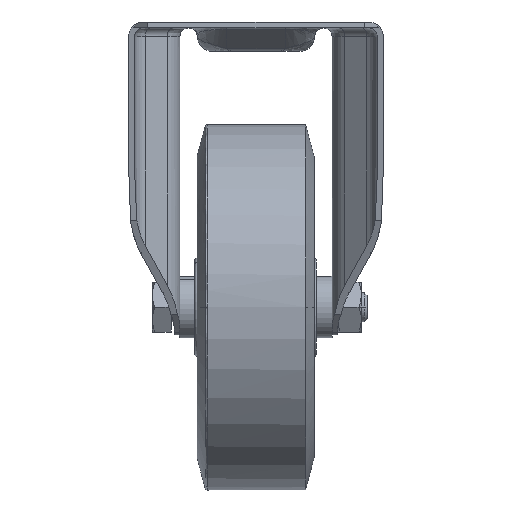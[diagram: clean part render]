
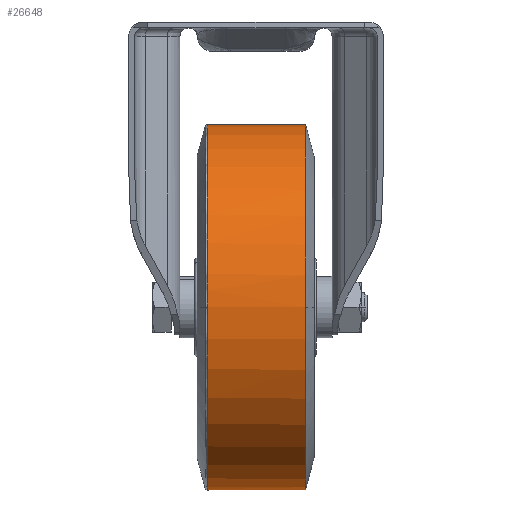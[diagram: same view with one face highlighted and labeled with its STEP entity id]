
A CAD part, left-side view. The second image highlights one B-rep face of the part: STEP entity #26648.
In plain terms, the highlighted cylindrical face has radius 62.5 mm (diameter 125 mm), a partial arc.
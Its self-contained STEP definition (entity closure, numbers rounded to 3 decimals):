
#169 = CARTESIAN_POINT ( 'NONE',  ( -127.125, 21.061, -12.938 ) ) ;
#294 = CARTESIAN_POINT ( 'NONE',  ( -102.749, 21.061, -62.632 ) ) ;
#1006 = EDGE_CURVE ( 'NONE', #4888, #14681, #14938, .T. ) ;
#1133 = CARTESIAN_POINT ( 'NONE',  ( -95.947, 21.061, 41.301 ) ) ;
#1487 = EDGE_CURVE ( 'NONE', #14681, #18964, #12359, .T. ) ;
#2014 = CARTESIAN_POINT ( 'NONE',  ( -64.625, -12.564, 49.562 ) ) ;
#2960 = CARTESIAN_POINT ( 'NONE',  ( -92.322, 21.061, -69.115 ) ) ;
#3795 = CARTESIAN_POINT ( 'NONE',  ( -105.927, 21.061, 34.148 ) ) ;
#4888 = VERTEX_POINT ( 'NONE', #17099 ) ;
#4905 = CARTESIAN_POINT ( 'NONE',  ( -64.625, 21.061, -75.438 ) ) ;
#5621 = CARTESIAN_POINT ( 'NONE',  ( -80.83, 21.061, -73.439 ) ) ;
#6436 = CARTESIAN_POINT ( 'NONE',  ( -64.625, 21.061, -12.938 ) ) ;
#6453 = CARTESIAN_POINT ( 'NONE',  ( -114.319, 21.061, 25.186 ) ) ;
#7866 = CARTESIAN_POINT ( 'NONE',  ( -64.625, -12.564, -12.938 ) ) ;
#8169 = CARTESIAN_POINT ( 'NONE',  ( -125.126, 21.061, -29.143 ) ) ;
#8276 = CARTESIAN_POINT ( 'NONE',  ( -68.716, 21.061, -75.438 ) ) ;
#9106 = CARTESIAN_POINT ( 'NONE',  ( -120.802, 21.061, 14.759 ) ) ;
#9311 = CIRCLE ( 'NONE', #13310, 62.5 ) ;
#10507 = DIRECTION ( 'NONE',  ( 0., 0., 1. ) ) ;
#10819 = CARTESIAN_POINT ( 'NONE',  ( -120.802, 21.061, -40.635 ) ) ;
#11755 = CARTESIAN_POINT ( 'NONE',  ( -125.126, 21.061, 3.267 ) ) ;
#12359 = B_SPLINE_CURVE_WITH_KNOTS ( 'NONE', 3,
 ( #169, #16077, #24058, #8169, #26737, #10819, #29417, #13505, #32061, #16189, #294, #18847, #2960, #21511, #5621, #24167, #8276, #26852 ),
 .UNSPECIFIED., .F., .F.,
 ( 4, 2, 2, 2, 2, 2, 2, 2, 4 ),
 ( 0., 0.125, 0.25, 0.375, 0.5, 0.625, 0.75, 0.875, 1. ),
 .UNSPECIFIED. ) ;
#13310 = AXIS2_PLACEMENT_3D ( 'NONE', #7866, #26440, #10507 ) ;
#13505 = CARTESIAN_POINT ( 'NONE',  ( -114.319, 21.061, -51.063 ) ) ;
#14218 = VERTEX_POINT ( 'NONE', #19566 ) ;
#14347 = CARTESIAN_POINT ( 'NONE',  ( -80.83, 21.061, 47.563 ) ) ;
#14455 = DIRECTION ( 'NONE',  ( 0., -1., 0. ) ) ;
#14473 = CARTESIAN_POINT ( 'NONE',  ( -127.125, 21.061, -8.848 ) ) ;
#14681 = VERTEX_POINT ( 'NONE', #15924 ) ;
#14765 = ORIENTED_EDGE ( 'NONE', *, *, #1487, .T. ) ;
#14938 = B_SPLINE_CURVE_WITH_KNOTS ( 'NONE', 3,
 ( #16899, #24888, #30239, #14347, #32881, #17009, #1133, #19680, #3795, #22338, #6453, #25002, #9106, #27691, #11755, #30350, #14473, #33005 ),
 .UNSPECIFIED., .F., .F.,
 ( 4, 2, 2, 2, 2, 2, 2, 2, 4 ),
 ( 0., 0.125, 0.25, 0.375, 0.5, 0.625, 0.75, 0.875, 1. ),
 .UNSPECIFIED. ) ;
#15178 = VECTOR ( 'NONE', #31450, 1000. ) ;
#15212 = CYLINDRICAL_SURFACE ( 'NONE', #31328, 62.5 ) ;
#15924 = CARTESIAN_POINT ( 'NONE',  ( -127.125, 21.061, -12.938 ) ) ;
#15997 = LINE ( 'NONE', #4905, #15178 ) ;
#16027 = FACE_OUTER_BOUND ( 'NONE', #20214, .T. ) ;
#16077 = CARTESIAN_POINT ( 'NONE',  ( -127.125, 21.061, -17.029 ) ) ;
#16189 = CARTESIAN_POINT ( 'NONE',  ( -105.927, 21.061, -60.025 ) ) ;
#16507 = LINE ( 'NONE', #25980, #30643 ) ;
#16899 = CARTESIAN_POINT ( 'NONE',  ( -64.625, 21.061, 49.562 ) ) ;
#17009 = CARTESIAN_POINT ( 'NONE',  ( -92.322, 21.061, 43.239 ) ) ;
#17099 = CARTESIAN_POINT ( 'NONE',  ( -64.625, 21.061, 49.562 ) ) ;
#18847 = CARTESIAN_POINT ( 'NONE',  ( -95.947, 21.061, -67.178 ) ) ;
#18964 = VERTEX_POINT ( 'NONE', #27890 ) ;
#19253 = VERTEX_POINT ( 'NONE', #2014 ) ;
#19566 = CARTESIAN_POINT ( 'NONE',  ( -64.625, -12.564, -75.438 ) ) ;
#19680 = CARTESIAN_POINT ( 'NONE',  ( -102.749, 21.061, 36.756 ) ) ;
#20214 = EDGE_LOOP ( 'NONE', ( #14765, #33413, #30842, #33513, #23965 ) ) ;
#21511 = CARTESIAN_POINT ( 'NONE',  ( -84.764, 21.061, -72.246 ) ) ;
#22320 = DIRECTION ( 'NONE',  ( 0., 0., 1. ) ) ;
#22338 = CARTESIAN_POINT ( 'NONE',  ( -111.712, 21.061, 28.363 ) ) ;
#22341 = EDGE_CURVE ( 'NONE', #4888, #19253, #16507, .T. ) ;
#23965 = ORIENTED_EDGE ( 'NONE', *, *, #1006, .T. ) ;
#24058 = CARTESIAN_POINT ( 'NONE',  ( -126.722, 21.061, -21.119 ) ) ;
#24167 = CARTESIAN_POINT ( 'NONE',  ( -72.806, 21.061, -75.035 ) ) ;
#24888 = CARTESIAN_POINT ( 'NONE',  ( -68.716, 21.061, 49.562 ) ) ;
#25002 = CARTESIAN_POINT ( 'NONE',  ( -118.865, 21.061, 18.384 ) ) ;
#25980 = CARTESIAN_POINT ( 'NONE',  ( -64.625, 21.061, 49.562 ) ) ;
#26440 = DIRECTION ( 'NONE',  ( 0., 1., 0. ) ) ;
#26648 = ADVANCED_FACE ( 'NONE', ( #16027 ), #15212, .T. ) ;
#26737 = CARTESIAN_POINT ( 'NONE',  ( -123.933, 21.061, -33.077 ) ) ;
#26852 = CARTESIAN_POINT ( 'NONE',  ( -64.625, 21.061, -75.438 ) ) ;
#27691 = CARTESIAN_POINT ( 'NONE',  ( -123.933, 21.061, 7.2 ) ) ;
#27890 = CARTESIAN_POINT ( 'NONE',  ( -64.625, 21.061, -75.438 ) ) ;
#28168 = EDGE_CURVE ( 'NONE', #18964, #14218, #15997, .T. ) ;
#28664 = DIRECTION ( 'NONE',  ( 0., -1., 0. ) ) ;
#28829 = EDGE_CURVE ( 'NONE', #14218, #19253, #9311, .T. ) ;
#29417 = CARTESIAN_POINT ( 'NONE',  ( -118.865, 21.061, -44.26 ) ) ;
#30239 = CARTESIAN_POINT ( 'NONE',  ( -72.806, 21.061, 49.159 ) ) ;
#30350 = CARTESIAN_POINT ( 'NONE',  ( -126.722, 21.061, -4.757 ) ) ;
#30643 = VECTOR ( 'NONE', #28664, 1000. ) ;
#30842 = ORIENTED_EDGE ( 'NONE', *, *, #28829, .T. ) ;
#31328 = AXIS2_PLACEMENT_3D ( 'NONE', #6436, #14455, #22320 ) ;
#31450 = DIRECTION ( 'NONE',  ( 0., -1., 0. ) ) ;
#32061 = CARTESIAN_POINT ( 'NONE',  ( -111.712, 21.061, -54.24 ) ) ;
#32881 = CARTESIAN_POINT ( 'NONE',  ( -84.764, 21.061, 46.37 ) ) ;
#33005 = CARTESIAN_POINT ( 'NONE',  ( -127.125, 21.061, -12.938 ) ) ;
#33413 = ORIENTED_EDGE ( 'NONE', *, *, #28168, .T. ) ;
#33513 = ORIENTED_EDGE ( 'NONE', *, *, #22341, .F. ) ;
